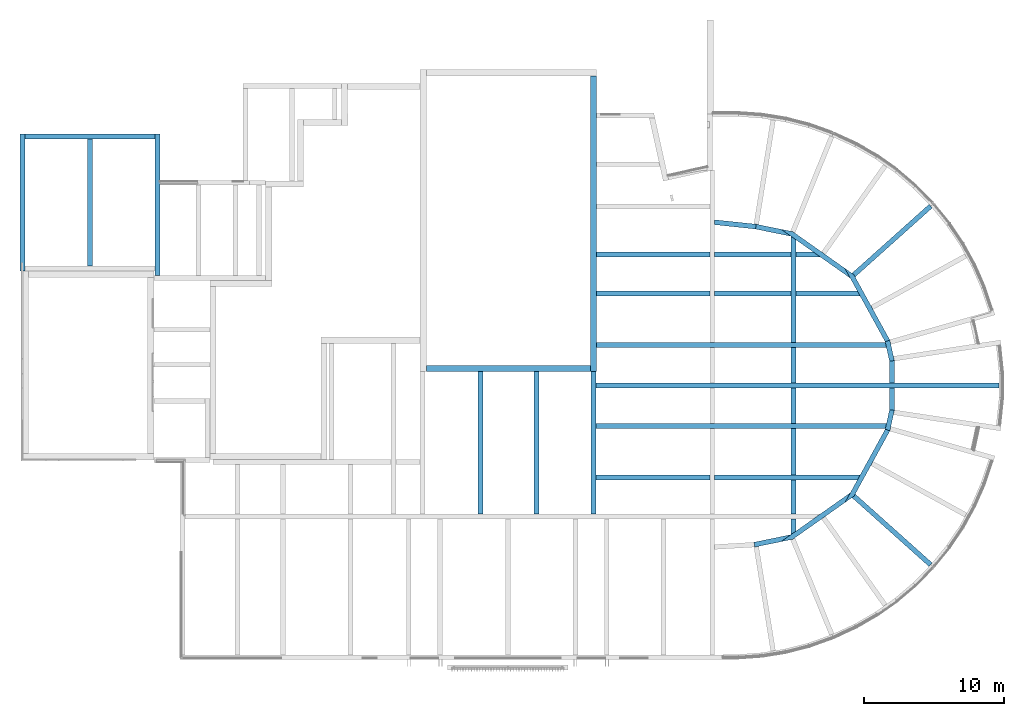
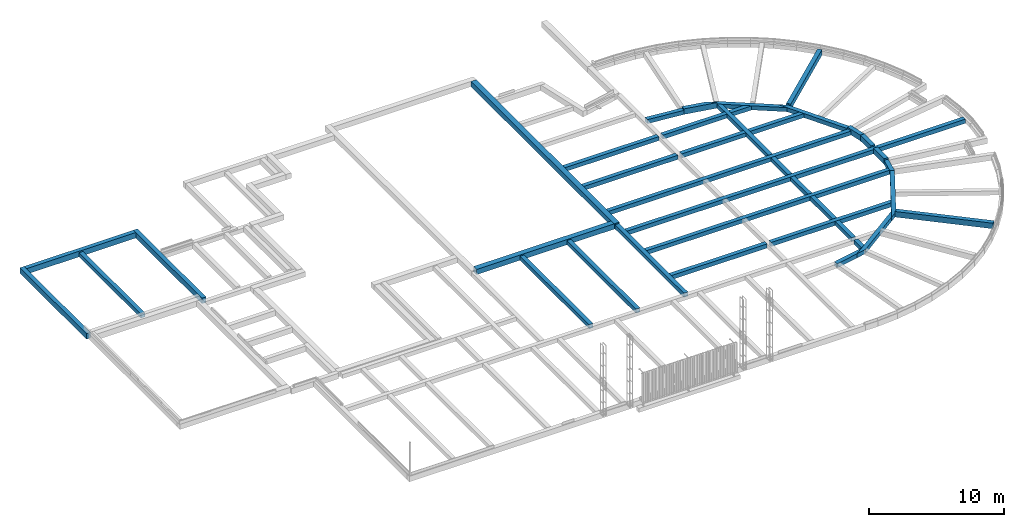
# One storey, part 4 of 11: 28 walls, 1 opening.
"""IFC2X3 building model written with IfcOpenShell, lengths in millimetres."""

from ifc_helpers import new_model, entity, si_unit, converted_unit, derived_unit, direction, frame, frame_2d, origin, origin_2d_with_axis, place, context, subcontext, project, spatial, polyline, rectangle, outline, extrude, clip, bounded_halfspace, material, layer, layer_set, layer_usage, type_object, element, save


model = new_model("IFC2X3")

# Units and contexts
model_context = context("Model", 3, precision=0.01, world=origin(), true_north=direction((6.12303176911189e-17, 1.0)))
body_context = subcontext(model_context, "Body", "Model", "MODEL_VIEW")
ifc_project = project(units=[si_unit("LENGTHUNIT", "METRE", prefix="MILLI"), si_unit("AREAUNIT", "SQUARE_METRE"), si_unit("VOLUMEUNIT", "CUBIC_METRE"), converted_unit("PLANEANGLEUNIT", "DEGREE", entity("IfcRatioMeasure", 0.0174532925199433), si_unit("PLANEANGLEUNIT", "RADIAN"), dimensions=[0, 0, 0, 0, 0, 0, 0]), si_unit("MASSUNIT", "GRAM", prefix="KILO"), derived_unit("MASSDENSITYUNIT", [(si_unit("MASSUNIT", "GRAM", prefix="KILO"), 1), (si_unit("LENGTHUNIT", "METRE"), -3)]), derived_unit("MOMENTOFINERTIAUNIT", [(si_unit("LENGTHUNIT", "METRE"), 4)]), si_unit("TIMEUNIT", "SECOND"), si_unit("FREQUENCYUNIT", "HERTZ"), si_unit("THERMODYNAMICTEMPERATUREUNIT", "DEGREE_CELSIUS"), derived_unit("THERMALTRANSMITTANCEUNIT", [(si_unit("MASSUNIT", "GRAM", prefix="KILO"), 1), (si_unit("THERMODYNAMICTEMPERATUREUNIT", "KELVIN"), -1), (si_unit("TIMEUNIT", "SECOND"), -3)]), derived_unit("VOLUMETRICFLOWRATEUNIT", [(si_unit("LENGTHUNIT", "METRE"), 3), (si_unit("TIMEUNIT", "SECOND"), -1)]), si_unit("ELECTRICCURRENTUNIT", "AMPERE"), si_unit("ELECTRICVOLTAGEUNIT", "VOLT"), si_unit("POWERUNIT", "WATT"), si_unit("FORCEUNIT", "NEWTON", prefix="KILO"), si_unit("ILLUMINANCEUNIT", "LUX"), si_unit("LUMINOUSFLUXUNIT", "LUMEN"), si_unit("LUMINOUSINTENSITYUNIT", "CANDELA"), derived_unit("USERDEFINED", [(si_unit("MASSUNIT", "GRAM", prefix="KILO"), -1), (si_unit("LENGTHUNIT", "METRE"), -2), (si_unit("TIMEUNIT", "SECOND"), 3), (si_unit("LUMINOUSFLUXUNIT", "LUMEN"), 1)]), derived_unit("LINEARVELOCITYUNIT", [(si_unit("LENGTHUNIT", "METRE"), 1), (si_unit("TIMEUNIT", "SECOND"), -1)]), si_unit("PRESSUREUNIT", "PASCAL"), derived_unit("USERDEFINED", [(si_unit("LENGTHUNIT", "METRE"), -2), (si_unit("MASSUNIT", "GRAM", prefix="KILO"), 1), (si_unit("TIMEUNIT", "SECOND"), -2)]), derived_unit("LINEARFORCEUNIT", [(si_unit("MASSUNIT", "GRAM", prefix="KILO"), 1), (si_unit("LENGTHUNIT", "METRE"), 1), (si_unit("TIMEUNIT", "SECOND"), -2), (si_unit("LENGTHUNIT", "METRE"), -1)]), derived_unit("PLANARFORCEUNIT", [(si_unit("MASSUNIT", "GRAM", prefix="KILO"), 1), (si_unit("LENGTHUNIT", "METRE"), 1), (si_unit("TIMEUNIT", "SECOND"), -2), (si_unit("LENGTHUNIT", "METRE"), -2)])], contexts=[model_context])

# Site, building, storey
site_placement = place(None, origin())
site = spatial("IfcSite", under=ifc_project, at=site_placement, Name="Default", CompositionType="ELEMENT")
building_placement = place(site_placement, origin())
building = spatial("IfcBuilding", under=site, at=building_placement, Name="-", CompositionType="ELEMENT")
storey_placement = place(building_placement, frame((0.0, 0.0, -780.0)))
storey = spatial("IfcBuildingStorey", under=building, at=storey_placement, Name="ok. fundering", CompositionType="ELEMENT", Elevation=-780.0)

# Walls
ifc_material = material(Name="NLRS_f2_beton")
ifc_layer_1 = layer(ifc_material, 450.0)
ifc_layer_set_1 = layer_set([ifc_layer_1], Name="Basic Wall:NLRS_16_WA_funderingsbalk 450x...mm_gen_aly")
ifc_layer_usage_1 = layer_usage(ifc_layer_set_1, "AXIS2", "NEGATIVE", 225.0)
wall_type_1 = type_object("IfcWallType", Name="Basic Wall:NLRS_16_WA_funderingsbalk 450x...mm_gen_aly", PredefinedType="STANDARD", material=ifc_layer_set_1)
wall_1_placement = place(storey_placement, frame((40868.0668104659, 41775.3202504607, 0.0), z_axis=(0.0, 0.0, 1.0), x_axis=(0.0, -1.0, 0.0)))
element("IfcWallStandardCase", 1, at=wall_1_placement, inside=storey, type_object=wall_type_1, material=ifc_layer_usage_1, Name="Basic Wall:NLRS_16_WA_funderingsbalk 450x...mm_gen_aly", ObjectType="Basic Wall:NLRS_16_WA_funderingsbalk 450x...mm_gen_aly", context=body_context, shape_type="SweptSolid", body=[
    extrude(rectangle(XDim=21169.0, YDim=450.000000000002, at=frame_2d((10584.5, 0.0), x_axis=(-1.0, 0.0))), origin(), (0.0, 0.0, 1.0), 469.999999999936),
])
ifc_layer_usage_2 = layer_usage(ifc_layer_set_1, "AXIS2", "NEGATIVE", 225.0)
wall_2_placement = place(storey_placement, frame((40643.0668104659, 20831.3202504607, 0.0), z_axis=(0.0, 0.0, 1.0), x_axis=(-1.0, 0.0, 0.0)))
element("IfcWallStandardCase", 2, at=wall_2_placement, inside=storey, type_object=wall_type_1, material=ifc_layer_usage_2, Name="Basic Wall:NLRS_16_WA_funderingsbalk 450x...mm_gen_aly", ObjectType="Basic Wall:NLRS_16_WA_funderingsbalk 450x...mm_gen_aly", context=body_context, shape_type="SweptSolid", body=[
    extrude(rectangle(XDim=11739.0668104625, YDim=450.000000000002, at=frame_2d((5869.53340523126, 1.13686837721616e-12), x_axis=(-1.0, 0.0))), origin(), (0.0, 0.0, 1.0), 469.999999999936),
])
ifc_layer_2 = layer(ifc_material, 350.0)
ifc_layer_set_2 = layer_set([ifc_layer_2], Name="Basic Wall:NLRS_16_WA_funderingsbalk 350x...mm_gen_aly")
ifc_layer_usage_3 = layer_usage(ifc_layer_set_2, "AXIS2", "NEGATIVE", 175.0)
wall_type_2 = type_object("IfcWallType", Name="Basic Wall:NLRS_16_WA_funderingsbalk 350x...mm_gen_aly", PredefinedType="STANDARD", material=ifc_layer_set_2)
wall_3_placement = place(storey_placement, frame((9650.0, 37615.9865767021, 0.0), z_axis=(0.0, 0.0, 1.0), x_axis=(0.0, -1.0, 0.0)))
element("IfcWallStandardCase", 3, at=wall_3_placement, inside=storey, type_object=wall_type_2, material=ifc_layer_usage_3, Name="Basic Wall:NLRS_16_WA_funderingsbalk 350x...mm_gen_aly", ObjectType="Basic Wall:NLRS_16_WA_funderingsbalk 350x...mm_gen_aly", context=body_context, shape_type="SweptSolid", body=[
    extrude(rectangle(XDim=10119.7978666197, YDim=350.000000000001, at=frame_2d((5059.89893330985, -1.84741111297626e-13), x_axis=(-1.0, 0.0))), origin(), (0.0, 0.0, 1.0), 499.999999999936),
])
ifc_layer_usage_4 = layer_usage(ifc_layer_set_2, "AXIS2", "NEGATIVE", 175.0)
wall_4_placement = place(storey_placement, frame((-16.1778468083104, 37615.9865767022, 0.0), z_axis=(0.0, 0.0, 1.0), x_axis=(0.0, -1.0, 0.0)))
element("IfcWallStandardCase", 4, at=wall_4_placement, inside=storey, type_object=wall_type_2, material=ifc_layer_usage_4, Name="Basic Wall:NLRS_16_WA_funderingsbalk 350x...mm_gen_aly", ObjectType="Basic Wall:NLRS_16_WA_funderingsbalk 350x...mm_gen_aly", context=body_context, shape_type="SweptSolid", body=[
    extrude(rectangle(XDim=9810.01102348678, YDim=350.0, at=frame_2d((4905.00551174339, 0.0), x_axis=(-1.0, 0.0))), origin(), (0.0, 0.0, 1.0), 499.999999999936),
])
ifc_layer_usage_5 = layer_usage(ifc_layer_set_2, "AXIS2", "NEGATIVE", 175.0)
wall_5_placement = place(storey_placement, frame((158.822153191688, 37440.9865767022, 0.0)))
element("IfcWallStandardCase", 5, at=wall_5_placement, inside=storey, type_object=wall_type_2, material=ifc_layer_usage_5, Name="Basic Wall:NLRS_16_WA_funderingsbalk 350x...mm_gen_aly", ObjectType="Basic Wall:NLRS_16_WA_funderingsbalk 350x...mm_gen_aly", context=body_context, shape_type="SweptSolid", body=[
    extrude(rectangle(XDim=9316.17784680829, YDim=349.999999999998, at=frame_2d((4658.08892340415, 4.2632564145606e-13), x_axis=(-1.0, 0.0))), origin(), (0.0, 0.0, 1.0), 499.999999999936),
])
ifc_layer_usage_6 = layer_usage(ifc_layer_set_2, "AXIS2", "NEGATIVE", 175.0)
wall_6_placement = place(storey_placement, frame((69897.1817552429, 19616.0597289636, 0.0), z_axis=(0.0, 0.0, 1.0), x_axis=(-1.0, 0.0, 0.0)))
element("IfcWallStandardCase", 6, at=wall_6_placement, inside=storey, type_object=wall_type_2, material=ifc_layer_usage_6, Name="Basic Wall:NLRS_16_WA_funderingsbalk 350x...mm_gen_aly", ObjectType="Basic Wall:NLRS_16_WA_funderingsbalk 350x...mm_gen_aly", context=body_context, shape_type="Clipping", body=[
    clip(extrude(rectangle(XDim=28854.114944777, YDim=349.999999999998, at=frame_2d((14427.0574723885, 1.84741111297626e-13), x_axis=(-1.0, 0.0))), origin(), (0.0, 0.0, 1.0), 369.999999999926), bounded_halfspace(frame((0.0, -175.0, 370.0), z_axis=(0.0, 0.0, -1.0), x_axis=(0.0, -1.0, 0.0)), True, frame((0.0, -175.0, 370.0), z_axis=(0.0, 0.0, -1.0), x_axis=(0.0, -1.0, 0.0)), polyline([(0.0, 0.0), (-350.0, 0.0), (-350.0, -14556.9901350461), (-350.0, -14906.9901350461), (-350.0, -20360.561365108), (-350.0, -20710.5613651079), (-350.0, -28854.114944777), (0.0, -28854.114944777), (0.0, -20710.5613651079), (0.0, -20360.5613651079), (0.0, -14906.9901350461), (0.0, -14556.9901350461), (0.0, 0.0)]))),
])
ifc_layer_usage_7 = layer_usage(ifc_layer_set_2, "AXIS2", "NEGATIVE", 175.0)
wall_7_placement = place(storey_placement, frame((64992.5061042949, 32448.459138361, 0.0), z_axis=(0.0, 0.0, 1.0), x_axis=(-0.745330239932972, -0.66669545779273, 0.0)))
element("IfcWallStandardCase", 7, at=wall_7_placement, inside=storey, type_object=wall_type_2, material=ifc_layer_usage_7, Name="Basic Wall:NLRS_16_WA_funderingsbalk 350x...mm_gen_aly", ObjectType="Basic Wall:NLRS_16_WA_funderingsbalk 350x...mm_gen_aly", context=body_context, shape_type="SweptSolid", body=[
    extrude(outline(polyline([(7401.28844857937, -175.0), (7361.65325945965, -3.02895414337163), (7402.7544820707, 175.0), (0.0, 175.0), (-7.71491539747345, 6.07865578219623), (0.440681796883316, -175.0), (7401.28844857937, -175.0)])), origin(), (0.0, 0.0, 1.0), 499.999999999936),
])

# Wall, opening
ifc_layer_usage_8 = layer_usage(ifc_layer_set_2, "AXIS2", "NEGATIVE", 175.0)
wall_8_placement = place(storey_placement, frame((62224.5059561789, 21395.5639589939, 0.0), z_axis=(0.0, 0.0, 1.0), x_axis=(0.0, -1.0, 0.0)))
wall_8 = element("IfcWallStandardCase", 8, at=wall_8_placement, inside=storey, type_object=wall_type_2, material=ifc_layer_usage_8, Name="Basic Wall:NLRS_16_WA_funderingsbalk 350x...mm_gen_aly", ObjectType="Basic Wall:NLRS_16_WA_funderingsbalk 350x...mm_gen_aly", context=body_context, shape_type="SweptSolid", body=[
    extrude(outline(polyline([(0.0, 175.0), (38.2200438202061, -175.0), (3522.97017995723, -175.0), (3560.47341077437, 175.0), (0.0, 175.0)])), origin(), (0.0, 0.0, 1.0), 499.999999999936),
])
opening_placement = place(storey_placement, frame((62224.5059561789, 21395.5639589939, 0.0), z_axis=(0.0, 0.0, 1.0), x_axis=(0.0, -1.0, 0.0)))
element("IfcOpeningElement", 9, at=opening_placement, cuts=wall_8, Name="Basic Wall:NLRS_16_WA_funderingsbalk 350x...mm_gen_aly:1", ObjectType="Opening", context=body_context, shape_type="SweptSolid", body=[
    extrude(rectangle(XDim=499.999999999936, YDim=349.999999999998, at=frame_2d((2.8421709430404e-14, 4.33431068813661e-12), x_axis=(1.0, 0.0))), frame((1954.50423003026, 0.0, 250.0), z_axis=(-1.0, 0.0, 0.0), x_axis=(0.0, 0.0, 1.0)), (0.0, 0.0, 1.0), 350.000000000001),
])

# Walls
ifc_layer_usage_9 = layer_usage(ifc_layer_set_2, "AXIS2", "NEGATIVE", 175.0)
wall_9_placement = place(storey_placement, frame((62228.4788901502, 17872.168070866, 0.0), z_axis=(0.0, 0.0, 1.0), x_axis=(-0.211871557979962, -0.977297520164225, 0.0)))
element("IfcWallStandardCase", 10, at=wall_9_placement, inside=storey, type_object=wall_type_2, material=ifc_layer_usage_9, Name="Basic Wall:NLRS_16_WA_funderingsbalk 350x...mm_gen_aly", ObjectType="Basic Wall:NLRS_16_WA_funderingsbalk 350x...mm_gen_aly", context=body_context, shape_type="Clipping", body=[
    clip(extrude(outline(polyline([(1456.84645635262, -175.0), (1507.76134633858, 175.0), (1181.54129640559, 175.0), (320.062180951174, 175.0), (0.0, 175.0), (37.5032308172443, -175.0), (1041.83817470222, -175.0), (1399.96862400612, -175.0), (1456.84645635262, -175.0)])), origin(), (0.0, 0.0, 1.0), 369.999999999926), bounded_halfspace(frame((37.5032308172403, -175.0, 370.0), z_axis=(0.0, 0.0, -1.0), x_axis=(-0.977297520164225, -0.211871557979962, 0.0)), True, frame((37.5032308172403, -175.0, 370.0), z_axis=(0.0, 0.0, -1.0), x_axis=(-0.977297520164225, -0.211871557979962, 0.0)), polyline([(0.0, 0.0), (-37.5032308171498, 350.0), (-1511.03465559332, 30.5482544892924), (-1387.12061457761, -300.718460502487), (0.0, 0.0)]))),
])
ifc_layer_usage_10 = layer_usage(ifc_layer_set_2, "AXIS2", "NEGATIVE", 175.0)
wall_10_placement = place(storey_placement, frame((61926.679501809, 16445.8277337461, 0.0), z_axis=(0.0, 0.0, 1.0), x_axis=(-0.481534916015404, -0.876426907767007, 0.0)))
element("IfcWallStandardCase", 11, at=wall_10_placement, inside=storey, type_object=wall_type_2, material=ifc_layer_usage_10, Name="Basic Wall:NLRS_16_WA_funderingsbalk 350x...mm_gen_aly", ObjectType="Basic Wall:NLRS_16_WA_funderingsbalk 350x...mm_gen_aly", context=body_context, shape_type="Clipping", body=[
    clip(extrude(outline(polyline([(6041.94301102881, -175.0), (5494.73122755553, 92.230097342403), (5325.2418380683, 175.0), (5154.6356795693, 175.0), (2835.7649639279, 175.0), (2485.7649639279, 175.0), (25.0502245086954, 175.0), (0.0, 175.0), (50.9148899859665, -175.0), (3794.12825429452, -175.0), (4193.47701560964, -175.0), (5244.34626371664, -175.0), (6041.94301102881, -175.0)])), origin(), (0.0, 0.0, 1.0), 369.999999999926), bounded_halfspace(frame((50.9148899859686, -175.0, 370.0), z_axis=(0.0, 0.0, -1.0), x_axis=(-0.876426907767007, -0.481534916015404, 0.0)), True, frame((50.9148899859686, -175.0, 370.0), z_axis=(0.0, 0.0, -1.0), x_axis=(-0.876426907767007, -0.481534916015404, 0.0)), polyline([(0.0, 0.0), (-123.914041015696, 331.266714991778), (-2302.50534178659, -865.715908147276), (-2609.25475950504, -1034.25312875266), (-4791.09927826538, -2233.02316626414), (-5250.69825047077, -2884.88922311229), (-4551.66299957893, -2500.81854038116), (-3630.65291399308, -1994.7883052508), (-3280.65291399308, -1802.48793301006), (0.0, 0.0)]))),
])
ifc_layer_usage_11 = layer_usage(ifc_layer_set_2, "AXIS2", "NEGATIVE", 175.0)
wall_11_placement = place(storey_placement, frame((59348.8091610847, 11790.784807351, 0.0), z_axis=(0.0, 0.0, 1.0), x_axis=(-0.817287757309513, -0.576229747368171, 0.0)))
element("IfcWallStandardCase", 12, at=wall_11_placement, inside=storey, type_object=wall_type_2, material=ifc_layer_usage_11, Name="Basic Wall:NLRS_16_WA_funderingsbalk 350x...mm_gen_aly", ObjectType="Basic Wall:NLRS_16_WA_funderingsbalk 350x...mm_gen_aly", context=body_context, shape_type="Clipping", body=[
    clip(extrude(outline(polyline([(6078.77318652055, -175.0), (5440.45077032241, 103.587012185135), (5276.82321793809, 175.0), (5097.73154504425, 175.0), (2777.64827113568, 175.0), (2427.64824324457, 175.0), (716.701172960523, 175.0), (0.0, -175.0), (2629.48255691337, -175.0), (3236.87917536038, -175.0), (4781.39712744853, -175.0), (5203.77389960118, -175.0), (6078.77318652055, -175.0)])), origin(), (0.0, 0.0, 1.0), 369.999999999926), bounded_halfspace(frame((0.0, -175.0, 370.0), z_axis=(0.0, 0.0, -1.0), x_axis=(-0.576229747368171, -0.817287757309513, 0.0)), True, frame((0.0, -175.0, 370.0), z_axis=(0.0, 0.0, -1.0), x_axis=(-0.576229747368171, -0.817287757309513, 0.0)), polyline([(0.0, 0.0), (-699.035250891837, -384.070682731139), (-3223.51527540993, -3964.63317023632), (-3326.71322483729, -4111.00260192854), (-3362.6353273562, -4285.88368517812), (-3502.76993757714, -4968.10690480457), (-2998.56931952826, -4252.98069995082), (-2755.18325881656, -3907.77733509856), (-1865.1860694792, -2645.46172191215), (-1515.1860694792, -2149.04390182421), (0.0, 0.0)]))),
])
ifc_layer_usage_12 = layer_usage(ifc_layer_set_2, "AXIS2", "NEGATIVE", 175.0)
wall_12_placement = place(storey_placement, frame((55030.1996265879, 8763.81984507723, 0.0), z_axis=(0.0, 0.0, 1.0), x_axis=(-0.979548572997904, -0.201207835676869, 0.0)))
element("IfcWallStandardCase", 13, at=wall_12_placement, inside=storey, type_object=wall_type_2, material=ifc_layer_usage_12, Name="Basic Wall:NLRS_16_WA_funderingsbalk 350x...mm_gen_aly", ObjectType="Basic Wall:NLRS_16_WA_funderingsbalk 350x...mm_gen_aly", context=body_context, shape_type="Clipping", body=[
    clip(extrude(outline(polyline([(2693.25270003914, -175.0), (2718.57898133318, 175.0), (2429.22998862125, 175.0), (801.949968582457, 175.0), (0.0, -175.0), (4.89678131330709, -175.0), (2693.25270003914, -175.0)])), origin(), (0.0, 0.0, 1.0), 369.999999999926), bounded_halfspace(frame((0.0, -175.0, 370.0), z_axis=(0.0, 0.0, -1.0), x_axis=(-0.201207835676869, -0.979548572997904, 0.0)), True, frame((0.0, -175.0, 370.0), z_axis=(0.0, 0.0, -1.0), x_axis=(-0.201207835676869, -0.979548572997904, 0.0)), polyline([(0.0, 0.0), (-504.200618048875, -715.126204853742), (-831.622108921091, -2309.12602635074), (-889.841393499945, -2592.55741926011), (-541.903546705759, -2638.17183904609), (-0.985270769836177, -4.79663514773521), (0.0, 0.0)]))),
])
ifc_layer_usage_13 = layer_usage(ifc_layer_set_2, "AXIS2", "NEGATIVE", 175.0)
wall_13_placement = place(storey_placement, frame((62228.6304070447, 21357.7943057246, 0.0), z_axis=(0.0, 0.0, 1.0), x_axis=(-0.215826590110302, 0.976431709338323, 0.0)))
element("IfcWallStandardCase", 14, at=wall_13_placement, inside=storey, type_object=wall_type_2, material=ifc_layer_usage_13, Name="Basic Wall:NLRS_16_WA_funderingsbalk 350x...mm_gen_aly", ObjectType="Basic Wall:NLRS_16_WA_funderingsbalk 350x...mm_gen_aly", context=body_context, shape_type="SweptSolid", body=[
    extrude(outline(polyline([(1510.67984755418, -175.0), (1460.40462437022, 175.0), (1404.12797269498, 175.0), (1045.67996588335, 175.0), (38.2200438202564, 175.0), (0.0, -175.0), (316.154602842, -175.0), (1183.64800527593, -175.0), (1510.67984755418, -175.0)])), origin(), (0.0, 0.0, 1.0), 499.999999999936),
])
ifc_layer_usage_14 = layer_usage(ifc_layer_set_2, "AXIS2", "NEGATIVE", 175.0)
wall_14_placement = place(storey_placement, frame((61920.1258448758, 22786.2992420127, 0.0), z_axis=(0.0, 0.0, 1.0), x_axis=(-0.481945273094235, 0.876201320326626, 0.0)))
element("IfcWallStandardCase", 15, at=wall_14_placement, inside=storey, type_object=wall_type_2, material=ifc_layer_usage_14, Name="Basic Wall:NLRS_16_WA_funderingsbalk 350x...mm_gen_aly", ObjectType="Basic Wall:NLRS_16_WA_funderingsbalk 350x...mm_gen_aly", context=body_context, shape_type="Clipping", body=[
    clip(extrude(outline(polyline([(5332.21777502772, -175.0), (5490.86523653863, -97.695590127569), (6050.50294944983, 175.0), (5251.4825543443, 175.0), (4194.63005016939, 175.0), (3795.17847222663, 175.0), (50.2752231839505, 175.0), (0.0, -175.0), (24.1408966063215, -175.0), (2480.42669461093, -175.0), (2830.42670656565, -175.0), (5149.50592808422, -175.0), (5332.21777502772, -175.0)])), origin(), (0.0, 0.0, 1.0), 369.999999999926), bounded_halfspace(frame((0.0, -175.0, 370.0), z_axis=(0.0, 0.0, -1.0), x_axis=(0.876201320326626, -0.481945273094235, 0.0)), True, frame((0.0, -175.0, 370.0), z_axis=(0.0, 0.0, -1.0), x_axis=(0.876201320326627, -0.481945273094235, 0.0)), polyline([(0.0, 0.0), (-124.629628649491, -330.900368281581), (3156.65954265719, -2135.73878735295), (3506.65954265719, -2328.25258717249), (5132.77782736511, -3222.6817584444), (4672.09625474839, -2569.83715178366), (2480.02361738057, -1364.11077206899), (2173.3531447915, -1195.42992072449), (0.0, 0.0)]))),
])
ifc_layer_usage_15 = layer_usage(ifc_layer_set_2, "AXIS2", "NEGATIVE", 175.0)
wall_15_placement = place(storey_placement, frame((59336.7610638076, 27446.2996105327, 0.0), z_axis=(0.0, 0.0, 1.0), x_axis=(-0.817056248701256, 0.576557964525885, 0.0)))
element("IfcWallStandardCase", 16, at=wall_15_placement, inside=storey, type_object=wall_type_2, material=ifc_layer_usage_15, Name="Basic Wall:NLRS_16_WA_funderingsbalk 350x...mm_gen_aly", ObjectType="Basic Wall:NLRS_16_WA_funderingsbalk 350x...mm_gen_aly", context=body_context, shape_type="Clipping", body=[
    clip(extrude(outline(polyline([(5257.94618815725, -175.0), (5426.99416666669, -100.870327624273), (6056.09881155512, 175.0), (5184.57852479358, 175.0), (4767.93587468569, 175.0), (3225.85434575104, 175.0), (2618.80349998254, 175.0), (0.0, 175.0), (718.285174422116, -175.0), (2415.0429049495, -175.0), (2765.04290495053, -175.0), (5084.90008149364, -175.0), (5257.94618815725, -175.0)])), origin(), (0.0, 0.0, 1.0), 369.999999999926), bounded_halfspace(frame((718.285174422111, -175.0, 370.0), z_axis=(0.0, 0.0, -1.0), x_axis=(0.576557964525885, -0.817056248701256, 0.0)), True, frame((718.285174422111, -175.0, 370.0), z_axis=(0.0, 0.0, -1.0), x_axis=(0.576557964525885, -0.817056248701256, 0.0)), polyline([(0.0, 0.0), (-700.102725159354, 385.084102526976), (809.78929028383, -1754.62566125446), (1159.78929028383, -2250.62034806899), (2048.88867773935, -3510.58769729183), (2289.10731602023, -3851.00817803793), (2791.58927859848, -4563.08927420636), (2617.37771371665, -3709.15839825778), (0.0, 0.0)]))),
])
ifc_layer_usage_16 = layer_usage(ifc_layer_set_2, "AXIS2", "NEGATIVE", 175.0)
wall_16_placement = place(storey_placement, frame((55034.7525670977, 30463.9928802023, 0.0), z_axis=(0.0, 0.0, 1.0), x_axis=(-0.979817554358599, 0.199893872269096, 0.0)))
element("IfcWallStandardCase", 17, at=wall_16_placement, inside=storey, type_object=wall_type_2, material=ifc_layer_usage_16, Name="Basic Wall:NLRS_16_WA_funderingsbalk 350x...mm_gen_aly", ObjectType="Basic Wall:NLRS_16_WA_funderingsbalk 350x...mm_gen_aly", context=body_context, shape_type="SweptSolid", body=[
    extrude(outline(polyline([(2611.64169984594, -175.0), (2594.99063679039, 175.0), (9.77683979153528, 175.0), (0.0, 175.0), (798.15262339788, -175.0), (2434.04627814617, -175.0), (2611.64169984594, -175.0)])), origin(), (0.0, 0.0, 1.0), 499.999999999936),
])
ifc_layer_usage_17 = layer_usage(ifc_layer_set_2, "AXIS2", "NEGATIVE", 175.0)
wall_17_placement = place(storey_placement, frame((52492.2563363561, 30983.4975482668, 0.0), z_axis=(0.0, 0.0, 1.0), x_axis=(-0.99436900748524, 0.105973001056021, 0.0)))
element("IfcWallStandardCase", 18, at=wall_17_placement, inside=storey, type_object=wall_type_2, material=ifc_layer_usage_17, Name="Basic Wall:NLRS_16_WA_funderingsbalk 350x...mm_gen_aly", ObjectType="Basic Wall:NLRS_16_WA_funderingsbalk 350x...mm_gen_aly", context=body_context, shape_type="Clipping", body=[
    clip(extrude(outline(polyline([(2991.02365320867, -175.0), (2953.7230634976, 175.0), (16.6510630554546, 175.0), (0.0, -175.0), (172.806650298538, -175.0), (2991.02365320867, -175.0)])), origin(), (0.0, 0.0, 1.0), 369.999999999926), bounded_halfspace(frame((0.0, -175.0, 370.0), z_axis=(0.0, 0.0, -1.0), x_axis=(0.105973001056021, -0.99436900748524, 0.0)), True, frame((0.0, -175.0, 370.0), z_axis=(0.0, 0.0, -1.0), x_axis=(0.105973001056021, -0.99436900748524, 0.0)), polyline([(0.0, 0.0), (-346.264589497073, -53.647851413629), (-35.0142552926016, -2974.18122140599), (316.967752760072, -2974.18122140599), (0.0, 0.0)]))),
])
ifc_layer_usage_18 = layer_usage(ifc_layer_set_2, "AXIS2", "NEGATIVE", 175.0)
wall_18_placement = place(storey_placement, frame((40868.0668104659, 20606.3202504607, 0.0), z_axis=(0.0, 0.0, 1.0), x_axis=(0.0, -1.0, 0.0)))
element("IfcWallStandardCase", 19, at=wall_18_placement, inside=storey, type_object=wall_type_2, material=ifc_layer_usage_18, Name="Basic Wall:NLRS_16_WA_funderingsbalk 350x...mm_gen_aly", ObjectType="Basic Wall:NLRS_16_WA_funderingsbalk 350x...mm_gen_aly", context=body_context, shape_type="Clipping", body=[
    clip(extrude(rectangle(XDim=10187.6961550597, YDim=350.000000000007, at=frame_2d((5093.84807752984, -9.9475983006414e-13), x_axis=(-1.0, 0.0))), origin(), (0.0, 0.0, 1.0), 369.999999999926), bounded_halfspace(frame((0.0, -175.0, 370.0), z_axis=(0.0, 0.0, -1.0), x_axis=(-1.0, 0.0, 0.0)), True, frame((0.0, -175.0, 370.0), z_axis=(0.0, 0.0, -1.0), x_axis=(-1.0, 0.0, 0.0)), polyline([(0.0, 0.0), (0.0, 350.0), (-815.260521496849, 350.0), (-1165.26052149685, 350.0), (-10187.6961550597, 350.0), (-10187.6961550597, 0.0), (0.0, 0.0)]))),
])
ifc_layer_usage_19 = layer_usage(ifc_layer_set_2, "AXIS2", "NEGATIVE", 175.0)
wall_19_placement = place(storey_placement, frame((59478.2792057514, 11716.1182147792, 0.0), z_axis=(0.0, 0.0, 1.0), x_axis=(0.745330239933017, -0.66669545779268, 0.0)))
element("IfcWallStandardCase", 20, at=wall_19_placement, inside=storey, type_object=wall_type_2, material=ifc_layer_usage_19, Name="Basic Wall:NLRS_16_WA_funderingsbalk 350x...mm_gen_aly", ObjectType="Basic Wall:NLRS_16_WA_funderingsbalk 350x...mm_gen_aly", context=body_context, shape_type="SweptSolid", body=[
    extrude(outline(polyline([(7397.92665003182, -175.0), (7406.082247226, 6.07865577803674), (7398.36733182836, 175.0), (3.9797670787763, 175.0), (42.4356413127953, 8.7844560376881), (0.0, -175.0), (7397.92665003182, -175.0)])), origin(), (0.0, 0.0, 1.0), 499.999999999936),
])
ifc_layer_usage_20 = layer_usage(ifc_layer_set_2, "AXIS2", "NEGATIVE", 175.0)
wall_20_placement = place(storey_placement, frame((41093.0668104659, 22516.0597289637, 0.0)))
element("IfcWallStandardCase", 21, at=wall_20_placement, inside=storey, type_object=wall_type_2, material=ifc_layer_usage_20, Name="Basic Wall:NLRS_16_WA_funderingsbalk 350x...mm_gen_aly", ObjectType="Basic Wall:NLRS_16_WA_funderingsbalk 350x...mm_gen_aly", context=body_context, shape_type="Clipping", body=[
    clip(extrude(outline(polyline([(20739.0025060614, -175.0), (20661.6398950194, 175.0), (14247.1248097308, 175.0), (13897.1248097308, 175.0), (8443.55357966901, 175.0), (8093.55357966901, 175.0), (0.0, 175.0), (0.0, -175.0), (8093.55357966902, -175.0), (8443.55357966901, -175.0), (13897.1248097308, -175.0), (14247.1248097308, -175.0), (20739.0025060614, -175.0)])), origin(), (0.0, 0.0, 1.0), 369.999999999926), bounded_halfspace(frame((0.0, -175.0, 370.0), z_axis=(0.0, 0.0, -1.0), x_axis=(0.0, 1.0, 0.0)), True, frame((0.0, -175.0, 370.0), z_axis=(0.0, 0.0, -1.0), x_axis=(0.0, 1.0, 0.0)), polyline([(0.0, 0.0), (350.0, 0.0), (350.0, 8093.55357966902), (350.0, 8443.55357966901), (350.0, 13897.1248097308), (350.0, 14247.1248097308), (350.0, 20661.6398950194), (0.0, 20739.0025060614), (0.0, 14247.1248097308), (0.0, 13897.1248097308), (0.0, 8443.55357966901), (0.0, 8093.55357966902), (0.0, 0.0)]))),
])
ifc_layer_usage_21 = layer_usage(ifc_layer_set_2, "AXIS2", "NEGATIVE", 175.0)
wall_21_placement = place(storey_placement, frame((41043.0668104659, 16716.0597289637, 0.0)))
element("IfcWallStandardCase", 22, at=wall_21_placement, inside=storey, type_object=wall_type_2, material=ifc_layer_usage_21, Name="Basic Wall:NLRS_16_WA_funderingsbalk 350x...mm_gen_aly", ObjectType="Basic Wall:NLRS_16_WA_funderingsbalk 350x...mm_gen_aly", context=body_context, shape_type="Clipping", body=[
    clip(extrude(outline(polyline([(20717.7714801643, -175.0), (20793.6491364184, 175.0), (14297.1248097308, 175.0), (13947.1248097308, 175.0), (8493.55357966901, 175.0), (8143.55357966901, 175.0), (0.0, 175.0), (0.0, -175.0), (8143.55357966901, -175.0), (8493.55357966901, -175.0), (13947.1248097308, -175.0), (14297.1248097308, -175.0), (20717.7714801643, -175.0)])), origin(), (0.0, 0.0, 1.0), 369.999999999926), bounded_halfspace(frame((0.0, -175.0, 370.0), z_axis=(0.0, 0.0, -1.0), x_axis=(0.0, 1.0, 0.0)), True, frame((0.0, -175.0, 370.0), z_axis=(0.0, 0.0, -1.0), x_axis=(0.0, 1.0, 0.0)), polyline([(0.0, 0.0), (350.0, 0.0), (350.0, 8143.55357966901), (350.0, 8493.55357966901), (350.0, 13947.1248097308), (350.0, 14297.1248097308), (350.0, 20793.6491364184), (0.0, 20717.7714801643), (0.0, 14297.1248097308), (0.0, 13947.1248097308), (0.0, 8493.55357966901), (0.0, 8143.55357966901), (0.0, 0.0)]))),
])
ifc_layer_usage_22 = layer_usage(ifc_layer_set_2, "AXIS2", "NEGATIVE", 175.0)
wall_22_placement = place(storey_placement, frame((4816.91107659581, 28155.9865767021, 0.0), z_axis=(0.0, 0.0, 1.0), x_axis=(0.0, 1.0, 0.0)))
element("IfcWallStandardCase", 23, at=wall_22_placement, inside=storey, type_object=wall_type_2, material=ifc_layer_usage_22, Name="Basic Wall:NLRS_16_WA_funderingsbalk 350x...mm_gen_aly", ObjectType="Basic Wall:NLRS_16_WA_funderingsbalk 350x...mm_gen_aly", context=body_context, shape_type="Clipping", body=[
    clip(extrude(rectangle(XDim=9110.00000000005, YDim=350.000000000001, at=frame_2d((4555.00000000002, 1.27897692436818e-13), x_axis=(-1.0, 0.0))), origin(), (0.0, 0.0, 1.0), 369.999999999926), bounded_halfspace(frame((0.0, -175.0, 370.0), z_axis=(0.0, 0.0, -1.0), x_axis=(1.0, 0.0, 0.0)), True, frame((0.0, -175.0, 370.0), z_axis=(0.0, 0.0, -1.0), x_axis=(1.0, 0.0, 0.0)), polyline([(0.0, 0.0), (0.0, -350.0), (9110.0, -350.0), (9110.0, 0.0), (0.0, 0.0)]))),
])
ifc_layer_usage_23 = layer_usage(ifc_layer_set_2, "AXIS2", "NEGATIVE", 175.0)
wall_23_placement = place(storey_placement, frame((36777.0, 20606.3202504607, 0.0), z_axis=(0.0, 0.0, 1.0), x_axis=(0.0, -1.0, 0.0)))
element("IfcWallStandardCase", 24, at=wall_23_placement, inside=storey, type_object=wall_type_2, material=ifc_layer_usage_23, Name="Basic Wall:NLRS_16_WA_funderingsbalk 350x...mm_gen_aly", ObjectType="Basic Wall:NLRS_16_WA_funderingsbalk 350x...mm_gen_aly", context=body_context, shape_type="Clipping", body=[
    clip(extrude(rectangle(XDim=10187.6961550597, YDim=349.999999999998, at=frame_2d((5093.84807752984, -9.9475983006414e-13), x_axis=(-1.0, 0.0))), origin(), (0.0, 0.0, 1.0), 369.999999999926), bounded_halfspace(frame((0.0, -175.0, 370.0), z_axis=(0.0, 0.0, -1.0), x_axis=(-1.0, 0.0, 0.0)), True, frame((0.0, -175.0, 370.0), z_axis=(0.0, 0.0, -1.0), x_axis=(-1.0, 0.0, 0.0)), polyline([(0.0, 0.0), (0.0, 350.0), (-10187.6961550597, 350.0), (-10187.6961550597, 0.0), (0.0, 0.0)]))),
])
ifc_layer_usage_24 = layer_usage(ifc_layer_set_2, "AXIS2", "NEGATIVE", 175.0)
wall_24_placement = place(storey_placement, frame((32783.0, 20606.3202504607, 0.0), z_axis=(0.0, 0.0, 1.0), x_axis=(0.0, -1.0, 0.0)))
element("IfcWallStandardCase", 25, at=wall_24_placement, inside=storey, type_object=wall_type_2, material=ifc_layer_usage_24, Name="Basic Wall:NLRS_16_WA_funderingsbalk 350x...mm_gen_aly", ObjectType="Basic Wall:NLRS_16_WA_funderingsbalk 350x...mm_gen_aly", context=body_context, shape_type="Clipping", body=[
    clip(extrude(rectangle(XDim=10187.6961550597, YDim=349.999999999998, at=frame_2d((5093.84807752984, 7.105427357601e-14), x_axis=(-1.0, 0.0))), origin(), (0.0, 0.0, 1.0), 369.999999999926), bounded_halfspace(frame((0.0, -175.0, 370.0), z_axis=(0.0, 0.0, -1.0), x_axis=(-1.0, 0.0, 0.0)), True, frame((0.0, -175.0, 370.0), z_axis=(0.0, 0.0, -1.0), x_axis=(-1.0, 0.0, 0.0)), polyline([(0.0, 0.0), (0.0, 350.0), (-10187.6961550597, 350.0), (-10187.6961550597, 0.0), (0.0, 0.0)]))),
])
wall_25_placement = place(storey_placement, frame((41043.0668104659, 13029.820250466, 0.0)))
element("IfcWall", 26, at=wall_25_placement, inside=storey, type_object=wall_type_2, Name="Basic Wall:NLRS_16_WA_funderingsbalk 350x...mm_gen_aly", ObjectType="Basic Wall:NLRS_16_WA_funderingsbalk 350x...mm_gen_aly", context=body_context, shape_type="SweptSolid", body=[
    extrude(rectangle(XDim=8143.55357966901, YDim=350.000000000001, at=frame_2d((0.0, -1.08002495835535e-12), x_axis=(1.0, 0.0))), frame((4071.7767898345, 0.0, 0.0)), (0.0, 0.0, 1.0), 369.999999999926),
    extrude(outline(polyline([(2169.89206778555, -4312.77509913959), (2569.24082910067, -4312.77509913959), (351.239027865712, -275.85815827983), (182.701807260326, 30.8912594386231), (-2443.38315699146, 4810.54782888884), (-2750.13257470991, 4642.01060828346), (-124.047610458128, -137.645961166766), (44.4896101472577, -444.39537888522), (2169.89206778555, -4312.77509913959)])), frame((13886.2214413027, 0.0, 0.0), z_axis=(0.0, 0.0, 1.0), x_axis=(0.481534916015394, 0.876426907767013, 0.0)), (0.0, 0.0, 1.0), 369.999999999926),
])
wall_26_placement = place(storey_placement, frame((55165.1916201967, 8934.25557458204, 0.0), z_axis=(0.0, 0.0, 1.0), x_axis=(0.0, 1.0, 0.0)))
element("IfcWall", 27, at=wall_26_placement, inside=storey, type_object=wall_type_2, Name="Basic Wall:NLRS_16_WA_funderingsbalk 350x...mm_gen_aly", ObjectType="Basic Wall:NLRS_16_WA_funderingsbalk 350x...mm_gen_aly", context=body_context, shape_type="SweptSolid", body=[
    extrude(outline(polyline([(-258.447397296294, -209.040672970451), (631.549792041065, -209.040672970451), (631.549792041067, 140.959327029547), (-502.818728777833, 140.959327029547), (-501.833458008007, 136.162691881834), (-258.447397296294, -209.040672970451)])), frame((502.818728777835, 34.0406729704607, 0.0)), (0.0, 0.0, 1.0), 369.999999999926),
    extrude(outline(polyline([(1349.95012467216, -2238.64713797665), (1766.59277478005, -2238.64713797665), (1775.54656558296, -2234.72078769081), (1123.30247862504, -1310.40764015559), (921.507191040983, -1024.43795311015), (-482.934722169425, 965.83555229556), (-684.73000975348, 1251.805239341), (-2608.26545264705, 3977.70055241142), (-2894.23513969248, 3775.90526482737), (-970.699696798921, 1050.00995175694), (-768.904409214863, 764.040264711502), (635.537503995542, -1226.23324069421), (837.3327915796, -1512.20292773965), (1349.95012467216, -2238.64713797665)])), frame((18510.6254665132, 12.7246523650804, 0.0), z_axis=(0.0, 0.0, 1.0), x_axis=(0.576557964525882, 0.817056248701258, 0.0)), (0.0, 0.0, 1.0), 369.999999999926),
    extrude(rectangle(XDim=2549.99999999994, YDim=349.999999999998, at=frame_2d((2.1600499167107e-12, -4.33431068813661e-12), x_axis=(1.0, 0.0))), frame((12131.8041543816, 0.0, 0.0)), (0.0, 0.0, 1.0), 369.999999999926),
    extrude(rectangle(XDim=2550.00000000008, YDim=349.999999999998, at=frame_2d((0.0, 8.66862137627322e-12), x_axis=(1.0, 0.0))), frame((9231.80415438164, 0.0, 0.0), z_axis=(0.0, 0.0, 1.0), x_axis=(-1.0, 0.0, 0.0)), (0.0, 0.0, 1.0), 369.999999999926),
    extrude(rectangle(XDim=3336.23947849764, YDim=349.999999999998, at=frame_2d((-1.02318153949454e-12, 4.33431068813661e-12), x_axis=(1.0, 0.0))), frame((5938.68441513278, 0.0, 0.0), z_axis=(0.0, 0.0, 1.0), x_axis=(-1.0, 0.0, 0.0)), (0.0, 0.0, 1.0), 369.999999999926),
    extrude(rectangle(XDim=2436.19615506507, YDim=349.999999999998, at=frame_2d((1.13686837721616e-12, 0.0), x_axis=(1.0, 0.0))), frame((2702.46659835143, 0.0, 0.0)), (0.0, 0.0, 1.0), 369.999999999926),
])
wall_27_placement = place(storey_placement, frame((41093.0668104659, 26202.2992074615, 0.0)))
element("IfcWall", 28, at=wall_27_placement, inside=storey, type_object=wall_type_2, Name="Basic Wall:NLRS_16_WA_funderingsbalk 350x...mm_gen_aly", ObjectType="Basic Wall:NLRS_16_WA_funderingsbalk 350x...mm_gen_aly", context=body_context, shape_type="SweptSolid", body=[
    extrude(rectangle(XDim=8093.55357966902, YDim=349.999999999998, at=frame_2d((0.0, -4.33431068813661e-12), x_axis=(1.0, 0.0))), frame((4046.77678983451, 0.0, 0.0)), (0.0, 0.0, 1.0), 369.999999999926),
    extrude(outline(polyline([(-2154.37998432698, -175.0), (2250.63688423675, -175.0), (2250.63688423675, 175.0), (-2346.89378414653, 175.0), (-2154.37998432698, -175.0)])), frame((16497.7616939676, 0.0, 0.0), z_axis=(0.0, 0.0, 1.0), x_axis=(-1.0, 0.0, 0.0)), (0.0, 0.0, 1.0), 369.999999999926),
    extrude(rectangle(XDim=5453.57123006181, YDim=350.000000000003, at=frame_2d((0.0, -4.33431068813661e-12), x_axis=(1.0, 0.0))), frame((11170.3391946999, 0.0, 0.0)), (0.0, 0.0, 1.0), 369.999999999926),
])
wall_28_placement = place(storey_placement, frame((41093.0668104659, 28988.2067824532, 0.0)))
element("IfcWall", 29, at=wall_28_placement, inside=storey, type_object=wall_type_2, Name="Basic Wall:NLRS_16_WA_funderingsbalk 350x...mm_gen_aly", ObjectType="Basic Wall:NLRS_16_WA_funderingsbalk 350x...mm_gen_aly", context=body_context, shape_type="SweptSolid", body=[
    extrude(rectangle(XDim=349.999999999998, YDim=8093.55357966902, at=origin_2d_with_axis()), frame((4046.77678983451, 0.0, 0.0), z_axis=(0.0, 0.0, 1.0), x_axis=(0.0, 1.0, 0.0)), (0.0, 0.0, 1.0), 369.999999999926),
    extrude(outline(polyline([(-505.985002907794, -175.0), (753.982346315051, -175.0), (753.98234631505, 175.0), (-1001.97968972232, 175.0), (-505.985002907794, -175.0)])), frame((15001.1071560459, 0.0, 0.0), z_axis=(0.0, 0.0, 1.0), x_axis=(-1.0, 0.0, 0.0)), (0.0, 0.0, 1.0), 369.999999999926),
    extrude(rectangle(XDim=5453.57123006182, YDim=349.999999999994, at=frame_2d((0.0, -2.17426077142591e-12), x_axis=(1.0, 0.0))), frame((11170.3391946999, 0.0, 0.0)), (0.0, 0.0, 1.0), 369.999999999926),
])

save(model, "model.ifc")
